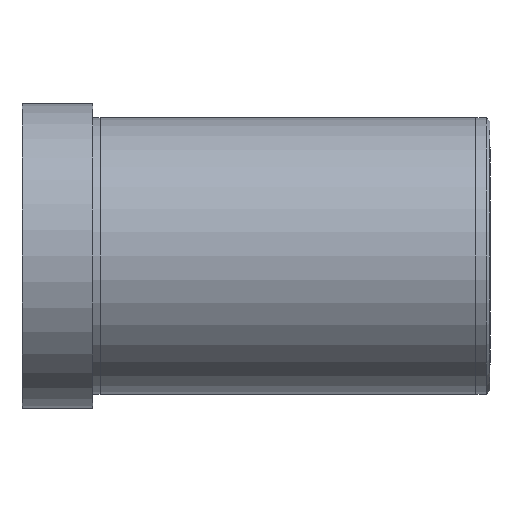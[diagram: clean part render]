
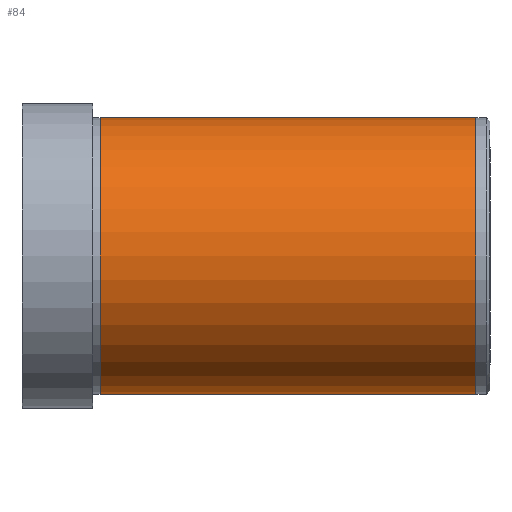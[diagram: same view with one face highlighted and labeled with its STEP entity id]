
A CAD part, front view. The second image highlights one B-rep face of the part: STEP entity #84.
In plain terms, the highlighted face is a revolution surface.
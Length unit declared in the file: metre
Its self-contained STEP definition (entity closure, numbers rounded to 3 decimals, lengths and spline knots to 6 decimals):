
#84 = ADVANCED_FACE( '', ( #116 ), #117, .F. );
#116 = FACE_OUTER_BOUND( '', #174, .T. );
#117 = SURFACE_OF_REVOLUTION( '', #175, #176 );
#174 = EDGE_LOOP( '', ( #357, #358, #359, #360 ) );
#175 = B_SPLINE_CURVE_WITH_KNOTS( '', 1, ( #361, #362 ), .UNSPECIFIED., .F., .F., ( 2, 2 ), ( -10000., 10000. ), .UNSPECIFIED. );
#176 = AXIS1_PLACEMENT( '', #363, #364 );
#357 = ORIENTED_EDGE( '', *, *, #460, .F. );
#358 = ORIENTED_EDGE( '', *, *, #458, .F. );
#359 = ORIENTED_EDGE( '', *, *, #444, .F. );
#360 = ORIENTED_EDGE( '', *, *, #457, .F. );
#361 = CARTESIAN_POINT( '', ( -10000.029, 0., -0.01951 ) );
#362 = CARTESIAN_POINT( '', ( 9999.971, 0., -0.01951 ) );
#363 = CARTESIAN_POINT( '', ( 0.042419, 0., 0. ) );
#364 = DIRECTION( '', ( -1., 0., 0. ) );
#444 = EDGE_CURVE( '', #488, #487, #490, .T. );
#457 = EDGE_CURVE( '', #511, #488, #512, .T. );
#458 = EDGE_CURVE( '', #487, #513, #514, .F. );
#460 = EDGE_CURVE( '', #513, #511, #516, .F. );
#487 = VERTEX_POINT( '', #555 );
#488 = VERTEX_POINT( '', #556 );
#490 = CIRCLE( '', #558, 0.01951 );
#511 = VERTEX_POINT( '', #583 );
#512 = LINE( '', #584, #585 );
#513 = VERTEX_POINT( '', #586 );
#514 = LINE( '', #587, #588 );
#516 = CIRCLE( '', #590, 0.01951 );
#555 = CARTESIAN_POINT( '', ( 0.024, 0., -0.01951 ) );
#556 = CARTESIAN_POINT( '', ( 0.024, 0., 0.01951 ) );
#558 = AXIS2_PLACEMENT_3D( '', #680, #681, #682 );
#583 = CARTESIAN_POINT( '', ( -0.029, 0., 0.01951 ) );
#584 = CARTESIAN_POINT( '', ( -0.029, 0., 0.01951 ) );
#585 = VECTOR( '', #711, 1. );
#586 = CARTESIAN_POINT( '', ( -0.029, 0., -0.01951 ) );
#587 = CARTESIAN_POINT( '', ( -0.029, 0., -0.01951 ) );
#588 = VECTOR( '', #712, 1. );
#590 = AXIS2_PLACEMENT_3D( '', #716, #717, #718 );
#680 = CARTESIAN_POINT( '', ( 0.024, 0., 0. ) );
#681 = DIRECTION( '', ( 1., 0., 0. ) );
#682 = DIRECTION( '', ( 0., 0., -1. ) );
#711 = DIRECTION( '', ( 1., 0., 0. ) );
#712 = DIRECTION( '', ( 1., 0., 0. ) );
#716 = CARTESIAN_POINT( '', ( -0.029, 0., 0. ) );
#717 = DIRECTION( '', ( 1., 0., 0. ) );
#718 = DIRECTION( '', ( 0., 0., -1. ) );
